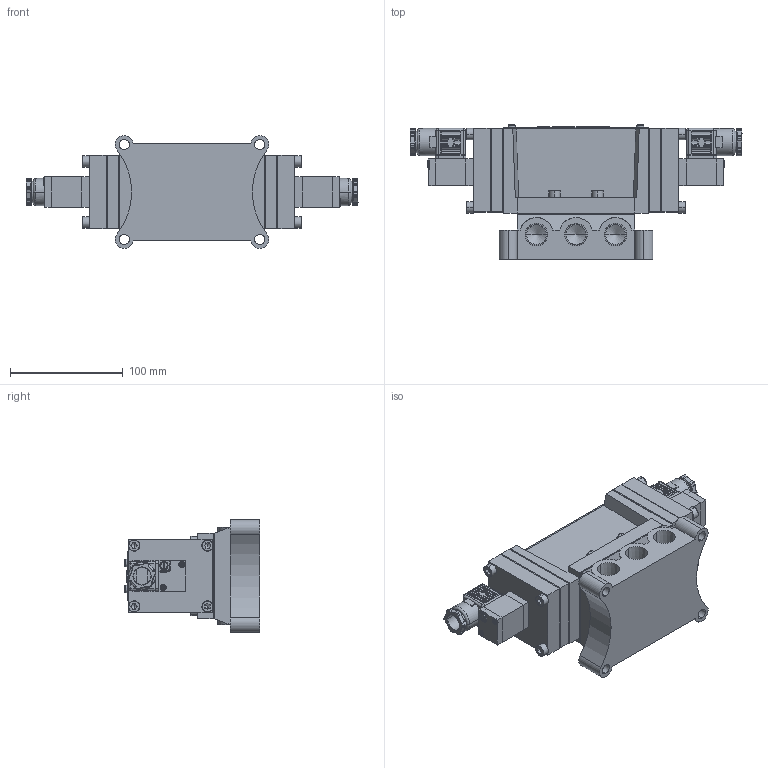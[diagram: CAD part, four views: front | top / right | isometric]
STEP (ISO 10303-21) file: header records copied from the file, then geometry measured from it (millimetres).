
FILE_DESCRIPTION (( 'STEP AP203' ), '1' );
FILE_NAME ('PMD(E)3415#-04-#C#.STEP', '2016-03-09T05:51:27', ( 'Sam Lin' ), ( '' ), 'SwSTEP 2.0', 'SolidWorks 2013', '' );
FILE_SCHEMA (( 'CONFIG_CONTROL_DESIGN' ));
Length unit declared in the file: metre
Products named in the file (17): PM06-C4; ISO 4762 M6 x 12; PM06-C6-M3; PM06-C1; PMS2415-1; PM06-C5; PMS2415-2; PMS2306-6(C); PMS2415-3; PMS2415-7; PMS2415-4; PMS2415-6; PM15-MARK-24; PMD3415-1; PMS2415-5; PMD(E)3415#-04-#C#; PM06-C3-M4
Assembly tree (43 placements, depth 2):
  PMD(E)3415#-04-#C#
    PMS2415-1
    PMS2415-2
    PMS2415-3  x4
    PMS2415-4  x2
    PM15-MARK-24
    PMS2415-5
    PM06-C3-M4  x4
    ISO 4762 M6 x 12  x12
    PM06-C1  x2
    PM06-C4  x2
    PM06-C6-M3  x4
    PM06-C5  x2
    PMS2306-6(C)  x2
    PMS2415-7  x2
    PMS2415-6
    PMD3415-1  x2
Bounding box: 294 x 119.55 x 99.99 mm (x, y, z)
Volume: 1224505.4 mm3; surface area: 261735.9 mm2
Topology: 49 solids, 49 shells, 1621 faces, 4016 edges, 2301 vertices
Faces by surface type: plane 652, cylinder 439, bspline 392, cone 138
Entity records: 30103 total; most frequent: CARTESIAN_POINT 11891, ORIENTED_EDGE 3332, DIRECTION 3116, EDGE_CURVE 1666, AXIS2_PLACEMENT_3D 1141, VERTEX_POINT 1052, VECTOR 834, LINE 834
